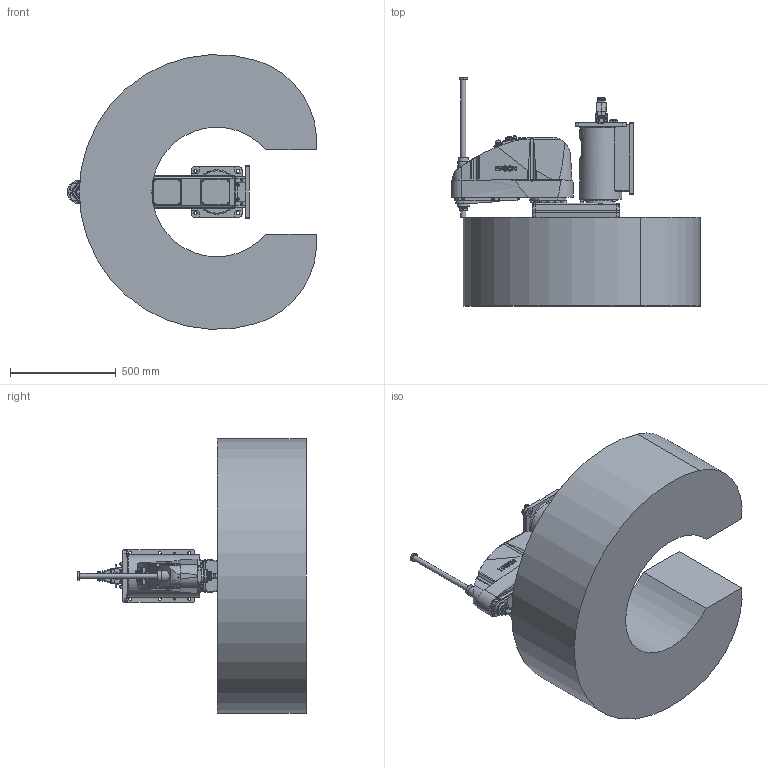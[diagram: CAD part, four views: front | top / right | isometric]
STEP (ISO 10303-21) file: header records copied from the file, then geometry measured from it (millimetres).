
FILE_DESCRIPTION( ( 'STEP AP214' ), '1' );
FILE_NAME( 'C:/Users/9607552/Desktop/GX10-B654SW_straight.stp', '2023-08-01T09:26:36', ( '' ), ( '' ), ' ', 'PARTsolutions', ' ' );
FILE_SCHEMA( ( 'AUTOMOTIVE_DESIGN { 1 0 10303 214 1 1 1 1 }' ) );
Length unit declared in the file: millimetre
Products named in the file (7): GX10-B654SWS-W; _Base sw; _Straight-B; _J1 Arm GX10-250 r/w; _J2 Arm GX10-s; _J3 Arm GX10-s (4); _GX10_20B-26_4
Assembly tree (6 placements, depth 2):
  GX10-B654SWS-W
    _Base sw
    _Straight-B
    _J1 Arm GX10-250 r/w
    _J2 Arm GX10-s
    _J3 Arm GX10-s (4)
    _GX10_20B-26_4
Bounding box: 1177.46 x 1080 x 1298.81 mm (x, y, z)
Volume: 388930960.3 mm3; surface area: 5421332.1 mm2
Topology: 6 solids, 6 shells, 2557 faces, 6277 edges, 4098 vertices
Faces by surface type: plane 1324, cylinder 801, cone 334, torus 65, bspline 32, sphere 1
Full cylindrical faces by diameter (mm): 1 x24, 1.18 x55, 2.5 x2, 3 x32, 3.242 x10, 3.3 x4, 4.2 x4, 4.8 x4, 5.1 x4, 5.25 x2, 5.34 x8, 5.4 x5, 5.5 x16, 6 x2, 6.2 x4, 6.647 x2, 6.8 x2, 7 x23, 7.59 x8, 8 x9, 8.5 x2, 9 x4, 10 x32, 11 x14, 12 x6, 12.25 x1, 13 x8, 14 x20, 14.25 x1, 16 x6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
Entity records: 96825 total; most frequent: CARTESIAN_POINT 18295, DIRECTION 11984, ORIENTED_EDGE 11136, EDGE_CURVE 5568, AXIS2_PLACEMENT_3D 4612, VERTEX_POINT 4005, EDGE_LOOP 3593, FACE_OUTER_BOUND 2952
